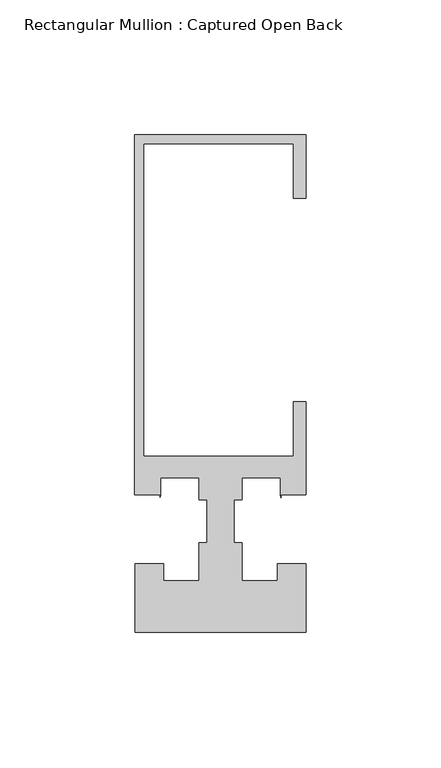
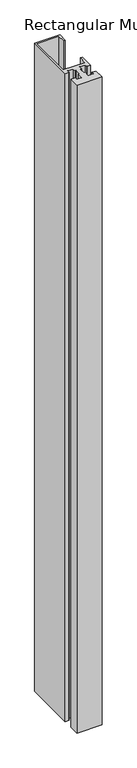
"""IFC4 building model written with IfcOpenShell, lengths in millimetres: member geometry, Rectangular Mullion : Captured Open Back."""

from ifc_helpers import new_model, si_unit, frame, origin, place, context, project, spatial, polyline, outline, extrude, source, transform, mapped, element, save


def rectangular_mullion_captured_open_back_3d0f3a1e(model_context):
    return source(origin(), model_context, "Body", "SweptSolid", [
        extrude(outline(polyline([(0.0, 114.3), (0.0, 90.8721193), (-4.7830665, 90.8721193), (-4.7830665, 111.1250145), (-60.3449493, 111.1250145), (-60.3449493, -4.7625735), (-4.7830665, -4.7625735), (-4.7830665, 15.5833982), (0.0, 15.5833982), (0.0, -18.933673), (-9.3791839, -18.933673), (-9.3791839, -20.0839351), (-9.5454538, -18.933673), (-9.5454538, -12.7), (-23.7289004, -12.7), (-23.7289004, -20.8793999), (-26.7817813, -20.8793999), (-26.7817813, -36.6491027), (-23.833119, -36.6491027), (-23.833119, -50.8001709), (-10.6860183, -50.8001709), (-10.6860183, -44.4245655), (0.0, -44.4245655), (0.0, -69.8502416), (-63.5, -69.8502416), (-63.5, -44.4247364), (-52.7976545, -44.4247364), (-52.7976545, -50.8001709), (-39.7081202, -50.8001709), (-39.7081202, -36.6491027), (-36.7345137, -36.6491027), (-36.7345137, -20.8793999), (-39.7081204, -20.8793999), (-39.7081204, -12.7), (-53.9955753, -12.7), (-53.9955753, -18.948961), (-54.1818814, -19.8905485), (-54.1818814, -18.9488461), (-63.5205663, -18.9488461), (-63.5205663, 114.3), (0.0, 114.3)])), frame((0.0, 0.0, -1727.2), z_axis=(0.0, 0.0, 1.0), x_axis=(1.0, 0.0, 0.0)), (0.0, 0.0, 1.0), 1727.2),
    ])


if __name__ == "__main__":
    model = new_model("IFC4")
    model_context = context("Model", 3, world=origin())
    ifc_project = project(units=[si_unit("LENGTHUNIT", "METRE", prefix="MILLI")], contexts=[model_context])
    site = spatial("IfcSite", under=ifc_project)
    building = spatial("IfcBuilding", under=site)
    placement = place(None, origin())
    rectangular_mullion_captured_open_back_shape = rectangular_mullion_captured_open_back_3d0f3a1e(model_context)
    element("IfcMember", 1, ObjectType="Rectangular Mullion : Captured Open Back", at=placement, inside=building, context=model_context, shape_type="MappedRepresentation", body=[
        mapped(rectangular_mullion_captured_open_back_shape, transform((0.0, 0.0, 0.0), x_axis=(1.0, 0.0, 0.0), y_axis=(0.0, 1.0, 0.0), z_axis=(0.0, 0.0, 1.0))),
    ])
    save(model, "model.ifc")
